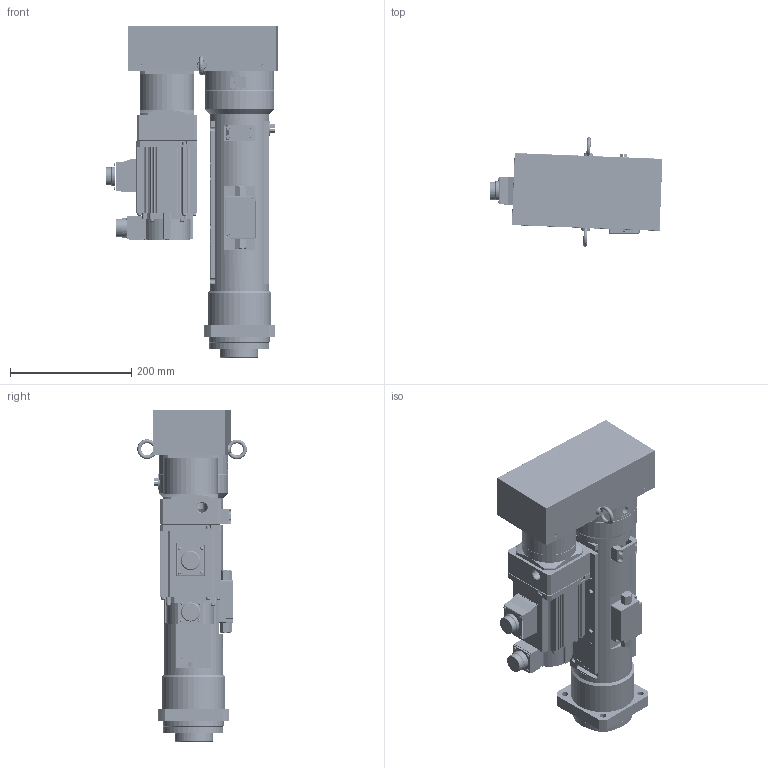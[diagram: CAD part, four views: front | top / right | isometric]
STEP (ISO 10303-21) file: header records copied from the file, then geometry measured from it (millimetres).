
FILE_DESCRIPTION( ('This file contains a STEP AP42 implementation' ,'as created by ZW3D STEP Interface translator.') ,'2;1' );
FILE_NAME( 'OACIS-DS-P010-200-200-A6V200_20.51.stp' ,'26 416.10 6 3', (''), ('ZWCAD Software Co.'), 'Version 1.0', 'ZW3D to STEP translator', '' );
FILE_SCHEMA(('AUTOMOTIVE_DESIGN { 1 0 10303 214 1 1 1 1 }'));
Length unit declared in the file: millimetre
Products named in the file (1): 0
Bounding box: 285.18 x 180.78 x 548 mm (x, y, z)
Volume: 5144682.9 mm3; surface area: 1204107.7 mm2
Topology: 47 solids, 54 shells, 2981 faces, 7663 edges, 5013 vertices
Faces by surface type: cylinder 1406, plane 1128, cone 324, torus 92, sphere 21, bspline 10
Full cylindrical faces by diameter (mm): 1.6 x8, 2.459 x5, 2.75 x4, 3.2 x5, 3.242 x10, 3.3 x74, 4 x8, 4.134 x12, 4.2 x4, 4.3 x24, 4.5 x4, 5 x40, 5.6 x5, 6.5 x4, 6.6 x8, 6.647 x5, 6.8 x36, 7 x20, 8 x40, 8.4 x8, 8.5 x25, 9 x4, 11 x12, 12 x1, 15 x8, 15.5 x2, 16.5 x2, 18 x5, 18.917 x2, 19 x2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
Entity records: 98729 total; most frequent: CARTESIAN_POINT 19170, DIRECTION 17089, ORIENTED_EDGE 15054, EDGE_CURVE 7566, AXIS2_PLACEMENT_3D 6805, VERTEX_POINT 4956, CIRCLE 3826, EDGE_LOOP 3545
